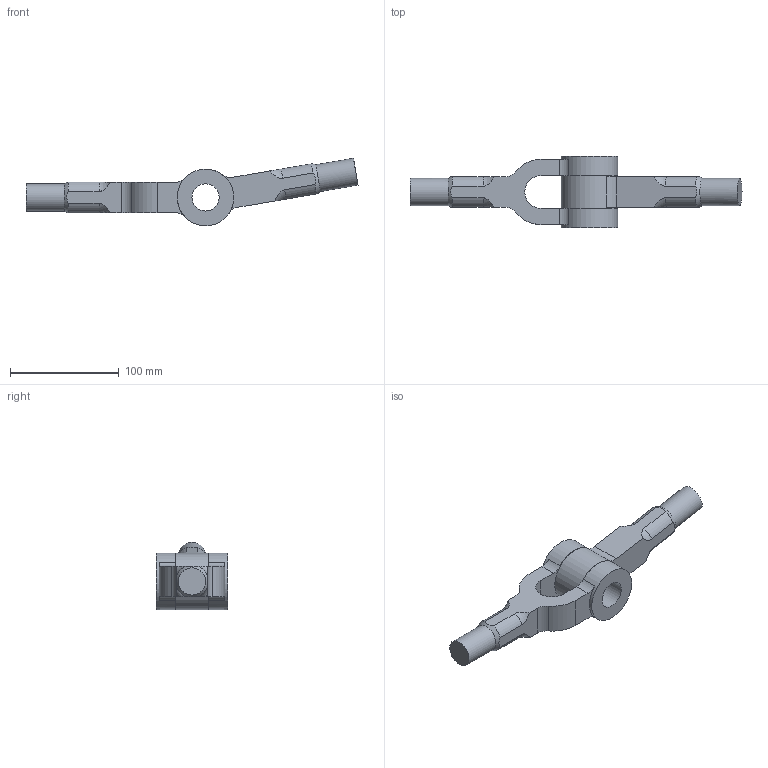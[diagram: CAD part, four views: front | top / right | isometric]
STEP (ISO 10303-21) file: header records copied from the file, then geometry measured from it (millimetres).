
FILE_DESCRIPTION((''),'2;1');
FILE_NAME('C:\Autodesk Simulation Mechanical\c07\Exe01\c07_exe01.STEP','2012-11-14T12:27:12',('Sham-2011B'),(''),'Autodesk Inventor 2012','Autodesk Inventor 2012','');
FILE_SCHEMA(('AUTOMOTIVE_DESIGN { 1 0 10303 214 1 1 1 1 }'));
Length unit declared in the file: millimetre
Products named in the file (3): Knuckle_Joint; Fork_End_A; Eye_End_B
Assembly tree (2 placements, depth 2):
  Knuckle_Joint
    Fork_End_A
    Eye_End_B
Bounding box: 305.1 x 66 x 61.98 mm (x, y, z)
Volume: 287900.6 mm3; surface area: 53538.7 mm2
Topology: 2 solids, 2 shells, 63 faces, 177 edges, 118 vertices
Faces by surface type: cylinder 27, plane 18, cone 10, torus 8
Full cylindrical faces by diameter (mm): 25 x5, 52 x3
Entity records: 2148 total; most frequent: CARTESIAN_POINT 560, DIRECTION 320, ORIENTED_EDGE 316, EDGE_CURVE 158, AXIS2_PLACEMENT_3D 134, VERTEX_POINT 110, EDGE_LOOP 80, CIRCLE 66
